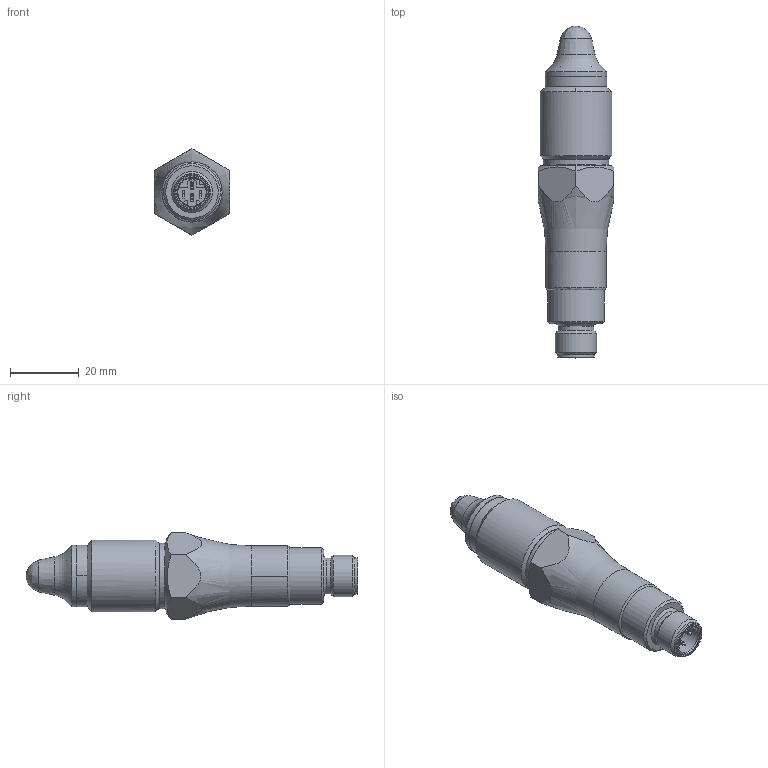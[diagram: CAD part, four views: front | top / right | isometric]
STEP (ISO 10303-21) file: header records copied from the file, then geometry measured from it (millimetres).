
FILE_DESCRIPTION( ( 'Unknown' ), '1' );
FILE_NAME( 'F:/U_Proces/dokumentation new/Mechanical parts/7000 3D Step filer/7000-/7000195/LBFS-03111.0.stp', 'Unknown', ( 'Unknown' ), ( 'Unknown' ), 'PSStep 13.0', 'Unknown', ' ' );
FILE_SCHEMA( ( 'AUTOMOTIVE_DESIGN { 1 0 10303 214 1 1 1 1 }' ) );
Length unit declared in the file: millimetre
Products named in the file (1): 2103100
Bounding box: 22 x 96.66 x 25.2 mm (x, y, z)
Surface area: 11256.9 mm2 (no closed solid volume)
Topology: 0 solids, 374 shells, 374 faces, 1935 edges, 1890 vertices
Faces by surface type: plane 206, cylinder 103, sphere 25, cone 19, revolution 12, torus 6, extrusion 2, bspline 1
Full cylindrical faces by diameter (mm): 8 x1, 8.3 x1, 9.4 x1, 9.6 x1, 10.4 x1, 10.6 x1, 12 x1, 13 x1, 14.5 x1, 15.4 x1, 16.5 x1, 18 x1, 19 x1, 20.95 x1
Entity records: 23265 total; most frequent: CARTESIAN_POINT 6120, DIRECTION 3002, ORIENTED_EDGE 1872, EDGE_CURVE 1872, VERTEX_POINT 1872, VECTOR 1094, LINE 1092, AXIS2_PLACEMENT_3D 948
